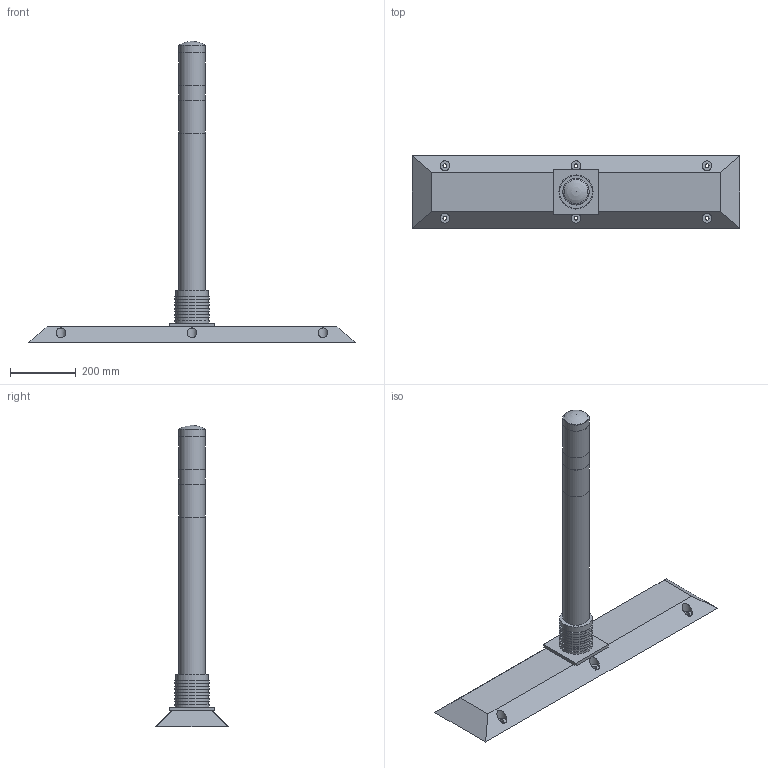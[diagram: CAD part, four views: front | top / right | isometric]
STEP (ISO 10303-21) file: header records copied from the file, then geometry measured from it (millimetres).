
FILE_DESCRIPTION(('FreeCAD Model'),'2;1');
FILE_NAME('Open CASCADE Shape Model','2026-10-04T02:55:26',('FreeCAD'),( 'FreeCAD'),'Open CASCADE STEP processor 7.8','FreeCAD','Unknown');
FILE_SCHEMA(('AUTOMOTIVE_DESIGN { 1 0 10303 214 1 1 1 1 }'));
Length unit declared in the file: millimetre
Products named in the file (1): Open CASCADE STEP translator 7.8 2
Bounding box: 1000 x 220 x 920 mm (x, y, z)
Volume: 3130903.6 mm3; surface area: 1166376.1 mm2
Topology: 5 solids, 5 shells, 103 faces, 221 edges, 152 vertices
Faces by surface type: plane 54, cylinder 40, bspline 8, sphere 1
Full cylindrical faces by diameter (mm): 12 x6, 30 x6, 38 x6, 72 x1, 79.2 x4, 80 x7, 100 x5, 104 x5
Entity records: 5588 total; most frequent: CARTESIAN_POINT 3332, ORIENTED_EDGE 440, DIRECTION 428, EDGE_CURVE 220, AXIS2_PLACEMENT_3D 168, FACE_BOUND 154, EDGE_LOOP 154, VERTEX_POINT 152
